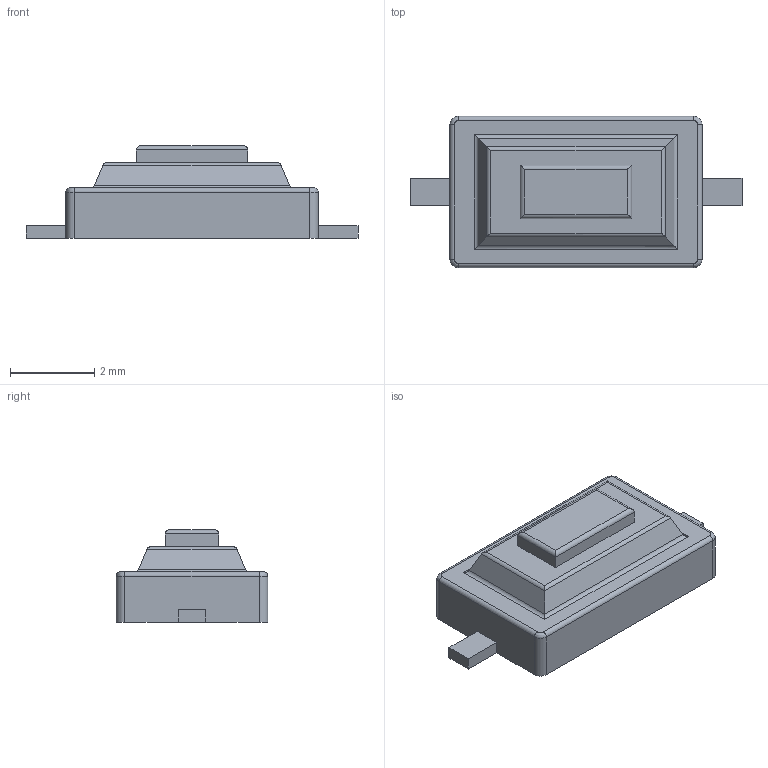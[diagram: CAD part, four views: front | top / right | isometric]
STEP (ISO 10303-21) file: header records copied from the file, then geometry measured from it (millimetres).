
FILE_DESCRIPTION (( 'STEP AP203' ), '1' );
FILE_NAME ('2Pin Tactile Switch 6x3.6.stp.STEP', '2026-08-19T20:49:51', ( '' ), ( '' ), 'SwSTEP 2.0', 'SolidWorks 2024', '' );
FILE_SCHEMA (( 'CONFIG_CONTROL_DESIGN' ));
Length unit declared in the file: millimetre
Products named in the file (1): 2Pin Tactile Switch 6x3.6.stp
Bounding box: 7.9 x 3.6 x 2.2 mm (x, y, z)
Volume: 33.8 mm3; surface area: 76.3 mm2
Topology: 1 solids, 1 shells, 48 faces, 112 edges, 68 vertices
Faces by surface type: plane 24, cylinder 20, bspline 4
Entity records: 1427 total; most frequent: CARTESIAN_POINT 297, ORIENTED_EDGE 224, DIRECTION 210, EDGE_CURVE 112, LINE 80, VECTOR 80, VERTEX_POINT 68, AXIS2_PLACEMENT_3D 65
